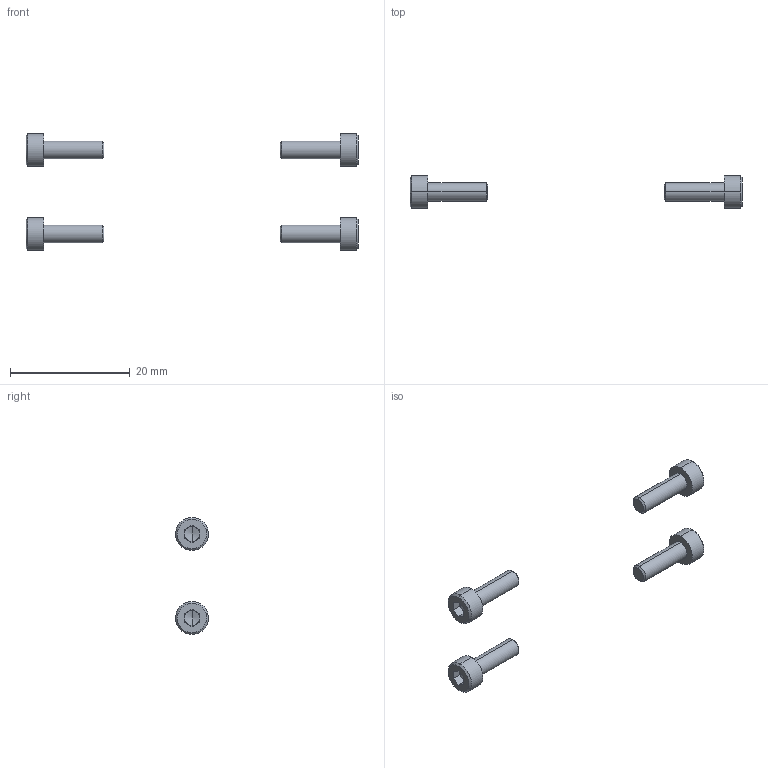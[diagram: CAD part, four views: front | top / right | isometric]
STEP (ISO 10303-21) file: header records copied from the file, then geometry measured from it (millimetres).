
FILE_DESCRIPTION(/* description */ (''),/* implementation_level */ '2;1');
FILE_NAME(/* name */ 'X-CART~2',/* time_stamp */ '2014-02-14T19:44:11+01:00',/* author */ (''),/* organization */ (''),/* preprocessor_version */ 'ST-DEVELOPER v14',/* originating_system */ '',/* authorisation */ '');
FILE_SCHEMA (('AUTOMOTIVE_DESIGN'));
Length unit declared in the file: millimetre
Products named in the file (2): Document; screw DIN912-like, M3x10
Assembly tree (2 placements, depth 2):
  Document
    screw DIN912-like, M3x10  x2
Bounding box: 55.4 x 5.49 x 19.52 mm (x, y, z)
Volume: 529.8 mm3; surface area: 807.4 mm2
Topology: 4 solids, 4 shells, 100 faces, 224 edges, 132 vertices
Faces by surface type: plane 60, bspline 40
Entity records: 4125 total; most frequent: CARTESIAN_POINT 1889, B_SPLINE_CURVE_WITH_KNOTS 378, ORIENTED_EDGE 324, PCURVE 324, DEFINITIONAL_REPRESENTATION 324, SURFACE_CURVE 162, EDGE_CURVE 162, VERTEX_POINT 99
